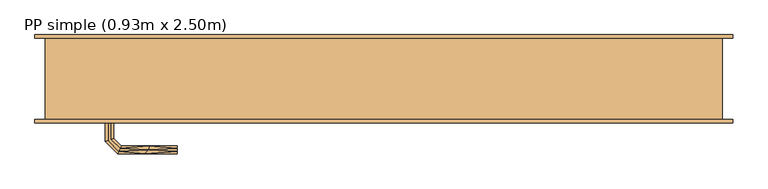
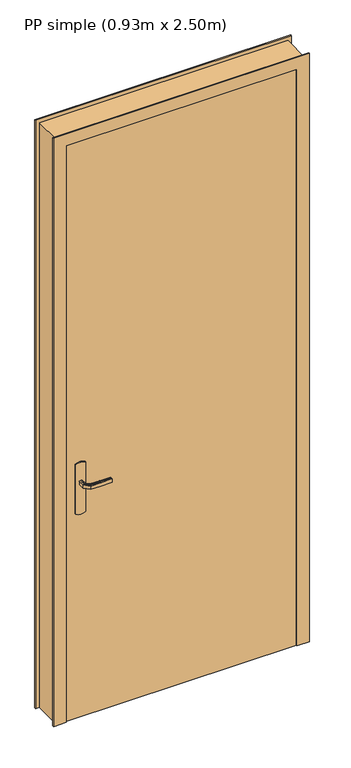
"""IFC4 building model written with IfcOpenShell, lengths in millimetres: door geometry, PP simple (0.93m x 2.50m)."""

from ifc_helpers import new_model, si_unit, frame, origin, origin_with_axes, place, context, project, spatial, polyline, outline, extrude, faceted_brep, source, transform, mapped, element, save


def pp_simple_0_93m_x_2_50m_d66461d5(model_context):
    return source(origin(), model_context, "Body", "SolidModel", [
        faceted_brep([(92.9747013, -5.0, 1007.7804408), (97.0252987, -5.0, 1007.7804408), (101.0, -5.0, 1007.0), (101.0, -5.0, 993.0), (97.0252987, -5.0, 992.2195592), (92.9747013, -5.0, 992.2195592), (89.0, -5.0, 993.0), (89.0, -5.0, 1007.0), (89.0, -32.6509507, 1007.0), (92.9747013, -31.0045755, 1007.7804408), (109.0235852, -47.0534593, 1007.7804408), (110.7013975, -43.002862, 1007.7804408), (97.0252987, -29.3267632, 1007.7804408), (101.0, -27.680388, 1007.0), (101.0, -27.680388, 993.0), (97.0252987, -29.3267632, 992.2195592), (110.7013975, -43.002862, 992.2195592), (109.0235852, -47.0534593, 992.2195592), (92.9747013, -31.0045755, 992.2195592), (89.0, -32.6509507, 993.0), (107.37721, -51.0281607, 1007.0), (112.3477727, -39.0281607, 1007.0), (112.3477727, -39.0281607, 993.0), (107.37721, -51.0281607, 993.0), (195.0186406, -51.0281607, 993.0), (195.0186406, -47.0534593, 992.2195592), (195.0186406, -43.002862, 992.2195592), (195.0186406, -39.0281607, 993.0), (195.0186406, -39.0281607, 1007.0), (195.0186406, -43.002862, 1007.7804408), (195.0186406, -47.0534593, 1007.7804408), (195.0186406, -51.0281607, 1007.0), (147.3076972, -51.0281607, 1007.0), (152.8600191, -45.0281607, 1007.8786868), (153.6832067, -39.0281607, 1007.0), (153.6832067, -39.0281607, 993.0), (152.8600189, -45.0281608, 992.1213132), (147.3077002, -51.0281607, 993.0)], [[[0, 1, 2, 3, 4, 5, 6, 7]], [[8, 9, 0, 7]], [[9, 10, 11, 12, 1, 0]], [[12, 13, 2, 1]], [[3, 2, 13, 14]], [[14, 15, 4, 3]], [[15, 16, 17, 18, 5, 4]], [[18, 19, 6, 5]], [[7, 6, 19, 8]], [[20, 10, 9, 8]], [[11, 21, 13, 12]], [[14, 13, 21, 22]], [[22, 16, 15, 14]], [[17, 23, 19, 18]], [[8, 19, 23, 20]], [[24, 25, 26, 27, 28, 29, 30, 31]], [[32, 30, 33]], [[31, 30, 32]], [[10, 20, 32]], [[33, 34, 11]], [[21, 11, 34]], [[34, 29, 28]], [[30, 29, 33]], [[29, 34, 33]], [[10, 32, 33]], [[10, 33, 11]], [[22, 21, 34, 28, 27, 35]], [[35, 26, 36]], [[37, 36, 25]], [[22, 35, 16]], [[35, 27, 26]], [[24, 37, 25]], [[23, 17, 37]], [[37, 17, 36]], [[17, 16, 36]], [[16, 35, 36]], [[25, 36, 26]], [[20, 23, 37, 24, 31, 32]]]),
        extrude(outline(polyline([(866.0039831, 105.3527618), (870.0, 115.0), (1080.0, 115.0), (1083.9960169, 105.3527618), (1085.3589838, 95.0), (1083.9960169, 84.6472382), (1080.0, 75.0), (870.0, 75.0), (866.0039831, 84.6472382), (864.6410162, 95.0), (866.0039831, 105.3527618)])), frame((0.0, -5.0, 0.0), z_axis=(0.0, 1.0, 0.0), x_axis=(0.0, 0.0, 1.0)), (0.0, 0.0, 1.0), 5.0),
        faceted_brep([(92.9747013, 45.0, 1007.7804408), (89.0, 45.0, 1007.0), (89.0, 45.0, 993.0), (92.9747013, 45.0, 992.2195592), (97.0252987, 45.0, 992.2195592), (101.0, 45.0, 993.0), (101.0, 45.0, 1007.0), (97.0252987, 45.0, 1007.7804408), (101.0, 67.4852045, 993.0), (101.0, 67.4852045, 1007.0), (97.0252987, 69.1315797, 1007.7804408), (110.8389062, 82.9451872, 1007.7804408), (109.1610938, 86.9957845, 1007.7804408), (92.9747013, 70.8093921, 1007.7804408), (89.0, 72.4557673, 1007.0), (89.0, 72.4557673, 993.0), (92.9747013, 70.8093921, 992.2195592), (109.1610938, 86.9957845, 992.2195592), (110.8389062, 82.9451872, 992.2195592), (97.0252987, 69.1315797, 992.2195592), (112.4852814, 78.9704859, 993.0), (112.4852814, 78.9704859, 1007.0), (107.5147186, 90.9704859, 1007.0), (107.5147186, 90.9704859, 993.0), (195.0457837, 78.9704859, 993.0), (195.0457837, 82.9451872, 992.2195592), (195.0457837, 86.9957845, 992.2195592), (195.0457837, 90.9704859, 993.0), (195.0457837, 90.9704859, 1007.0), (195.0457837, 86.9957845, 1007.7804408), (195.0457837, 82.9451872, 1007.7804408), (195.0457837, 78.9704859, 1007.0), (153.7655206, 78.9704859, 993.0), (153.7655325, 78.9704859, 1007.0), (152.9423449, 84.9704859, 1007.8786868), (147.4452058, 90.9704859, 1007.0), (147.4452043, 90.9704859, 993.0), (152.9423451, 84.9704858, 992.1213132)], [[[0, 1, 2, 3, 4, 5, 6, 7]], [[6, 5, 8, 9]], [[9, 10, 7, 6]], [[10, 11, 12, 13, 0, 7]], [[13, 14, 1, 0]], [[2, 1, 14, 15]], [[15, 16, 3, 2]], [[16, 17, 18, 19, 4, 3]], [[19, 8, 5, 4]], [[9, 8, 20, 21]], [[21, 11, 10, 9]], [[12, 22, 14, 13]], [[15, 14, 22, 23]], [[23, 17, 16, 15]], [[18, 20, 8, 19]], [[24, 25, 26, 27, 28, 29, 30, 31]], [[21, 20, 32, 24, 31, 33]], [[33, 30, 34]], [[35, 34, 29]], [[21, 33, 11]], [[33, 31, 30]], [[28, 35, 29]], [[22, 12, 35]], [[35, 12, 34]], [[12, 11, 34]], [[11, 33, 34]], [[29, 34, 30]], [[22, 35, 28, 27, 36, 23]], [[36, 26, 37]], [[27, 26, 36]], [[17, 23, 36]], [[37, 32, 18]], [[20, 18, 32]], [[32, 25, 24]], [[26, 25, 37]], [[25, 32, 37]], [[17, 36, 37]], [[17, 37, 18]]]),
        faceted_brep([(0.0, 120.0, 0.0), (-15.0, 120.0, 0.0), (-15.0, 125.0, 0.0), (50.0, 125.0, 0.0), (50.0, 40.0, 0.0), (35.0, 40.0, 0.0), (35.0, -5.0, 0.0), (-15.0, -5.0, 0.0), (-15.0, 0.0, 0.0), (0.0, 0.0, 0.0), (0.0, 0.0, 2485.0), (0.0, 120.0, 2485.0), (1000.0, 120.0, 2485.0), (1000.0, 120.0, 0.0), (1015.0, 120.0, 0.0), (1015.0, 120.0, 2500.0), (-15.0, 120.0, 2500.0), (50.0, 125.0, 2435.0), (50.0, 40.0, 2435.0), (950.0, 40.0, 2435.0), (950.0, 40.0, 0.0), (965.0, 40.0, 0.0), (965.0, 40.0, 2450.0), (35.0, 40.0, 2450.0), (1000.0, 0.0, 2485.0), (1000.0, 0.0, 0.0), (1015.0, 0.0, 0.0), (1015.0, -5.0, 0.0), (965.0, -5.0, 0.0), (950.0, 125.0, 0.0), (1015.0, 125.0, 0.0), (950.0, 125.0, 2435.0), (35.0, -5.0, 2450.0), (965.0, -5.0, 2450.0), (1015.0, -5.0, 2500.0), (-15.0, -5.0, 2500.0), (-15.0, 0.0, 2500.0), (1015.0, 0.0, 2500.0), (-15.0, 125.0, 2500.0), (1015.0, 125.0, 2500.0)], [[[0, 1, 2, 3, 4, 5, 6, 7, 8, 9]], [[0, 9, 10, 11]], [[1, 0, 11, 12, 13, 14, 15, 16]], [[3, 17, 18, 4]], [[5, 4, 18, 19, 20, 21, 22, 23]], [[12, 24, 25, 13]], [[13, 25, 26, 27, 28, 21, 20, 29, 30, 14]], [[19, 31, 29, 20]], [[11, 10, 24, 12]], [[18, 17, 31, 19]], [[5, 23, 32, 6]], [[7, 6, 32, 33, 28, 27, 34, 35]], [[8, 7, 35, 36]], [[9, 8, 36, 37, 26, 25, 24, 10]], [[2, 1, 16, 38]], [[3, 2, 38, 39, 30, 29, 31, 17]], [[33, 22, 21, 28]], [[37, 34, 27, 26]], [[39, 15, 14, 30]], [[32, 23, 22, 33]], [[36, 35, 34, 37]], [[38, 16, 15, 39]]]),
        extrude(outline(polyline([(35.0, 40.0), (965.0, 40.0), (965.0, 0.0), (35.0, 0.0), (35.0, 40.0)])), origin_with_axes(), (0.0, 0.0, 1.0), 2450.0),
        extrude(outline(polyline([(866.0039831, 105.3527618), (870.0, 115.0), (1080.0, 115.0), (1083.9960169, 105.3527618), (1085.3589838, 95.0), (1083.9960169, 84.6472382), (1080.0, 75.0), (870.0, 75.0), (866.0039831, 84.6472382), (864.6410162, 95.0), (866.0039831, 105.3527618)])), frame((0.0, 40.0, 0.0), z_axis=(0.0, 1.0, 0.0), x_axis=(0.0, 0.0, 1.0)), (0.0, 0.0, 1.0), 5.0),
    ])


if __name__ == "__main__":
    model = new_model("IFC4")
    model_context = context("Model", 3, world=origin())
    ifc_project = project(units=[si_unit("LENGTHUNIT", "METRE", prefix="MILLI")], contexts=[model_context])
    site = spatial("IfcSite", under=ifc_project)
    building = spatial("IfcBuilding", under=site)
    placement = place(None, origin())
    pp_simple_0_93m_x_2_50m_shape = pp_simple_0_93m_x_2_50m_d66461d5(model_context)
    element("IfcDoor", 1, ObjectType="PP simple (0.93m x 2.50m)", at=placement, inside=building, context=model_context, shape_type="MappedRepresentation", body=[
        mapped(pp_simple_0_93m_x_2_50m_shape, transform((0.0, 0.0, 0.0), x_axis=(1.0, 0.0, 0.0), y_axis=(0.0, 1.0, 0.0), z_axis=(0.0, 0.0, 1.0))),
    ])
    save(model, "model.ifc")
